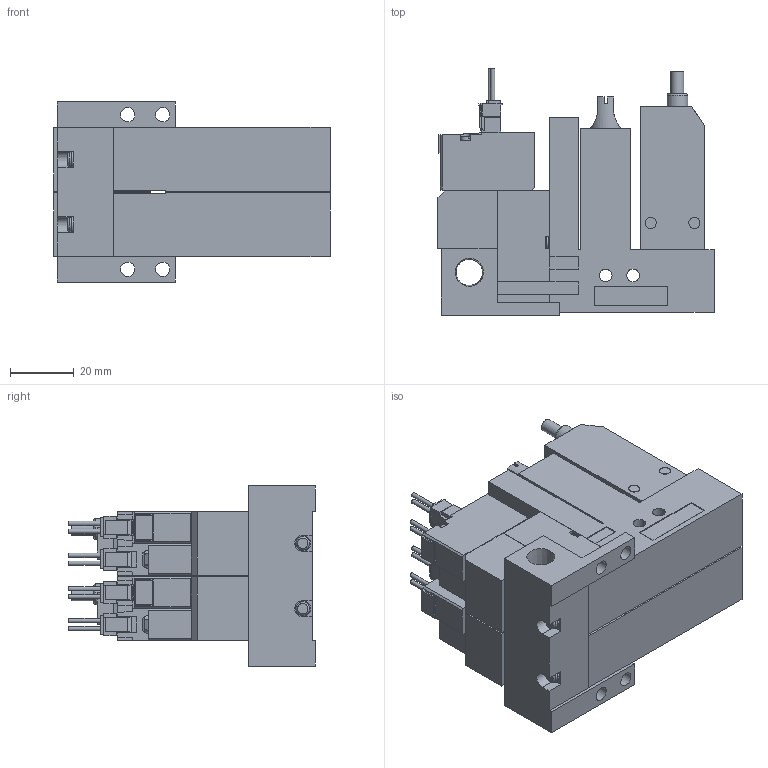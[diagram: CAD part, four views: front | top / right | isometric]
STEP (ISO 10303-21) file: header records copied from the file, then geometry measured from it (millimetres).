
FILE_DESCRIPTION(('STEP AP203'),'1');
FILE_NAME('ABS_ABPL5ALR202.stp','2025-06-18T05:24:32',(' '),(' '),'Spatial InterOp 3D',' ',' ');
FILE_SCHEMA(('CONFIG_CONTROL_DESIGN'));
Length unit declared in the file: millimetre
Products named in the file (5): BMC22M※※※※ABS_ABPL5ALR202; Solenoid valve A; Pressure sensor ABSL; Unit L; Base MR20R
Assembly tree (7 placements, depth 2):
  BMC22M※※※※ABS_ABPL5ALR202
    Solenoid valve A  x2
    Pressure sensor ABSL  x2
    Unit L  x2
    Base MR20R
Bounding box: 86.6 x 77.45 x 56.5 mm (x, y, z)
Volume: 183929 mm3; surface area: 51987.2 mm2
Topology: 7 solids, 7 shells, 771 faces, 2067 edges, 1362 vertices
Faces by surface type: plane 650, cylinder 97, cone 16, torus 8
Full cylindrical faces by diameter (mm): 1.4 x8, 2.5 x2, 3 x8, 3.5 x12, 3.6 x2, 4 x6, 4.134 x2, 4.5 x4, 5.2 x2, 6 x2, 6.5 x2, 6.6 x2, 8.279 x1
Entity records: 12766 total; most frequent: CARTESIAN_POINT 2346, ORIENTED_EDGE 2062, DIRECTION 2022, EDGE_CURVE 1031, LINE 870, VECTOR 870, VERTEX_POINT 710, AXIS2_PLACEMENT_3D 576
